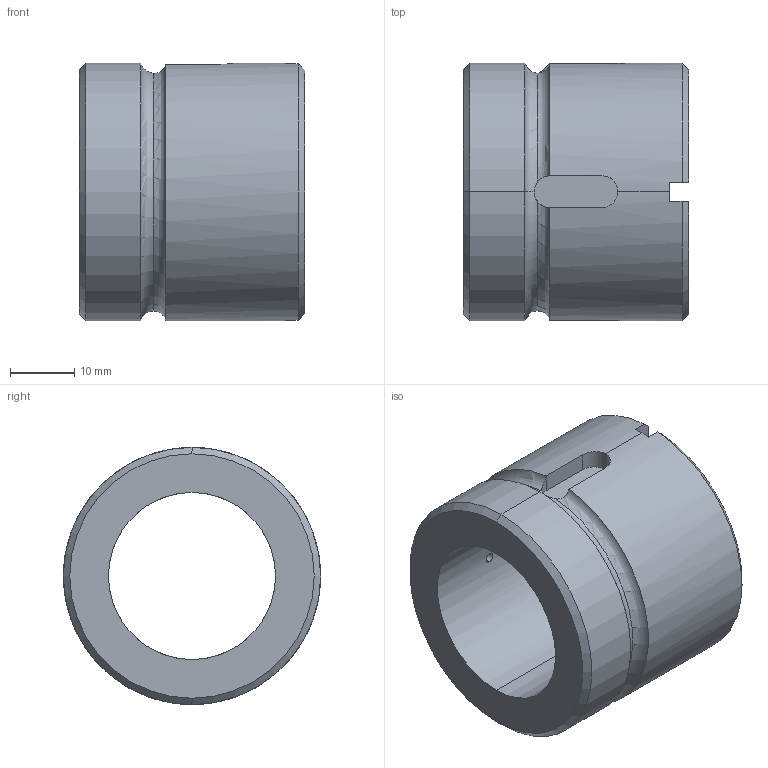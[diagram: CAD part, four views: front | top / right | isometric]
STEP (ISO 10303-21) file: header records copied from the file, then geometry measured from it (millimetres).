
FILE_DESCRIPTION (( 'STEP AP214' ), '1' );
FILE_NAME ('KGM-D 2525.STEP', '2021-01-19T01:25:44', ( 'user' ), ( 'datathink' ), 'SwSTEP 2.0', 'SolidWorks 2013', '' );
FILE_SCHEMA (( 'AUTOMOTIVE_DESIGN' ));
Length unit declared in the file: millimetre
Products named in the file (1): KGM-D 2525
Bounding box: 35 x 40 x 40 mm (x, y, z)
Volume: 24453.8 mm3; surface area: 8852.8 mm2
Topology: 1 solids, 1 shells, 31 faces, 84 edges, 53 vertices
Faces by surface type: plane 12, cylinder 11, torus 4, cone 4
Entity records: 1149 total; most frequent: CARTESIAN_POINT 329, ORIENTED_EDGE 168, DIRECTION 165, EDGE_CURVE 84, AXIS2_PLACEMENT_3D 65, VERTEX_POINT 53, LINE 35, VECTOR 35
